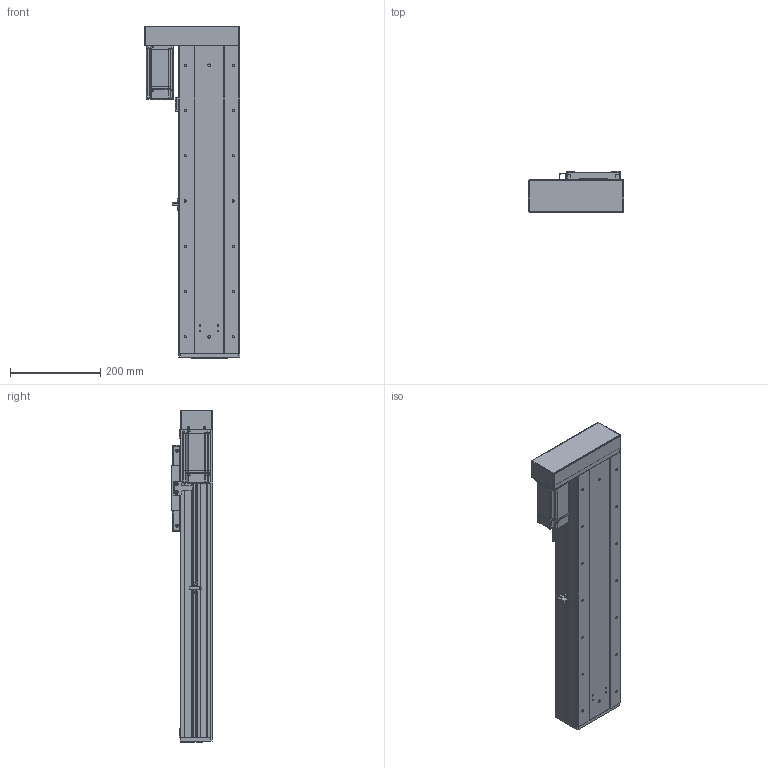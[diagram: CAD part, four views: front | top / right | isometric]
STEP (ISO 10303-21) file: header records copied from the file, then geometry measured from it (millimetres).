
FILE_DESCRIPTION (( 'STEP AP203' ), '1' );
FILE_NAME ('RY140F-L2020-300-LK.SLDASM_400.step', '2021-03-02T08:37:01', ( '盈信电脑' ), ( '东莞市道滘镇水果街19号' ), 'SwSTEP 2.0', 'SolidWorks 2012', '' );
FILE_SCHEMA (( 'CONFIG_CONTROL_DESIGN' ));
Length unit declared in the file: millimetre
Products named in the file (19): RY140F-滅鳥奻裔; RY140F-300-LK蛌殏詩湍_400; RY140F-詩湍幗謫粣; RY140F-直连型材铝滑块连接座; RY140F-300-LK倰第菁釱_400; RY140F-300-LK倰第奻裔啣_400; 15; RY100F-詩湍揤踡謫; RY140F-后盖板(铝件）; RY140F-直连型材铝滑块(16丝杆); RY140F-L2020-300-LK.SLDASM_400; RY140F-酘衵殏萇儂欶(400W); RY140F-左右折电机安装板(400W M5); RY140F-詩湍揤え; RY140F-672覜茼んえ; RY140F-转折折电机座（7001）; 侐源滅袉蝶; 覜茼ん672; 侂狟400W侜督萇儂
Assembly tree (23 placements, depth 3):
  RY140F-L2020-300-LK.SLDASM_400
    RY140F-300-LK倰第菁釱_400
    RY140F-300-LK倰第奻裔啣_400  x2
    RY140F-300-LK蛌殏詩湍_400
    RY140F-直连型材铝滑块连接座
    RY140F-滅鳥奻裔
    RY140F-詩湍幗謫粣
    RY100F-詩湍揤踡謫
    RY140F-直连型材铝滑块(16丝杆)
    RY140F-后盖板(铝件）
    侂狟400W侜督萇儂
      15
    覜茼ん672
    RY140F-672覜茼んえ
    RY140F-詩湍揤え  x2
    侐源滅袉蝶  x4
    RY140F-转折折电机座（7001）
    RY140F-左右折电机安装板(400W M5)
    RY140F-酘衵殏萇儂欶(400W)
Bounding box: 211 x 91 x 734 mm (x, y, z)
Volume: 3205738.5 mm3; surface area: 1135033.5 mm2
Topology: 22 solids, 22 shells, 2001 faces, 5461 edges, 3472 vertices
Faces by surface type: cylinder 968, plane 789, cone 214, bspline 26, torus 4
Entity records: 63263 total; most frequent: CARTESIAN_POINT 13425, DIRECTION 10106, ORIENTED_EDGE 9834, EDGE_CURVE 4917, AXIS2_PLACEMENT_3D 3617, VERTEX_POINT 3212, VECTOR 2872, LINE 2872
